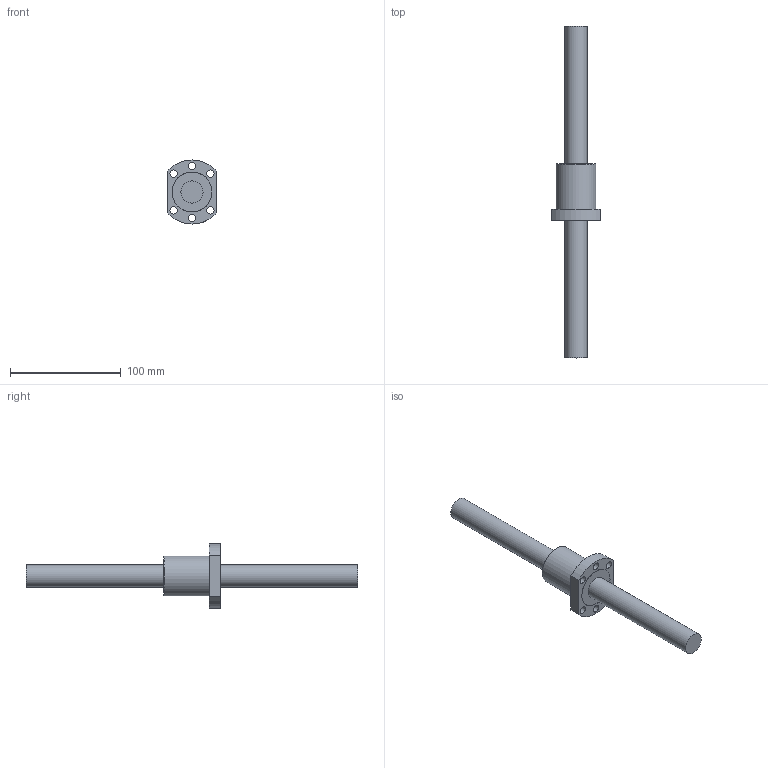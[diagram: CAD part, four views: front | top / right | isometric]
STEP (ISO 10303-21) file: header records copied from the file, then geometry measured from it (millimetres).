
FILE_DESCRIPTION(/* description */ (''),/* implementation_level */ '2;1');
FILE_NAME(/* name */ '2005.stp',/* time_stamp */ '2014-07-11T13:12:36+08:00',/* author */ (''),/* organization */ (''),/* preprocessor_version */ 'ST-DEVELOPER v11',/* originating_system */ 'SIEMENS UGS NX 6.0',/* authorisation */ '');
FILE_SCHEMA (('CONFIG_CONTROL_DESIGN'));
Length unit declared in the file: millimetre
Products named in the file (1): kcc5E5Cj7n4
Bounding box: 44 x 300 x 58 mm (x, y, z)
Volume: 140383.6 mm3; surface area: 37800.9 mm2
Topology: 4 solids, 4 shells, 32 faces, 75 edges, 52 vertices
Faces by surface type: cylinder 18, plane 13, torus 1
Full cylindrical faces by diameter (mm): 5 x1, 6.6 x6, 20 x4, 28 x2, 36 x3
Entity records: 998 total; most frequent: CARTESIAN_POINT 240, DIRECTION 146, ORIENTED_EDGE 96, EDGE_LOOP 70, AXIS2_PLACEMENT_3D 68, FACE_BOUND 64, EDGE_CURVE 48, VERTEX_POINT 42
